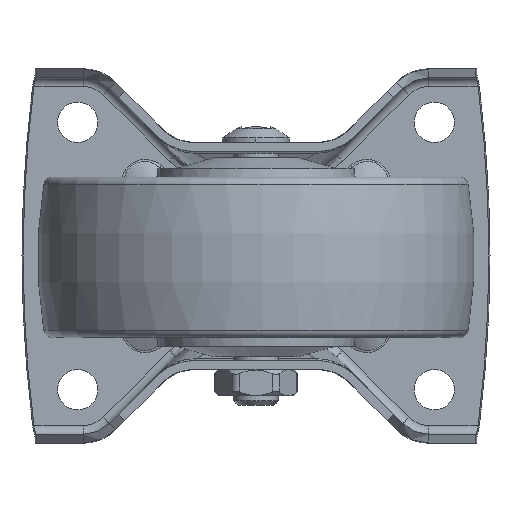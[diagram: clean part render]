
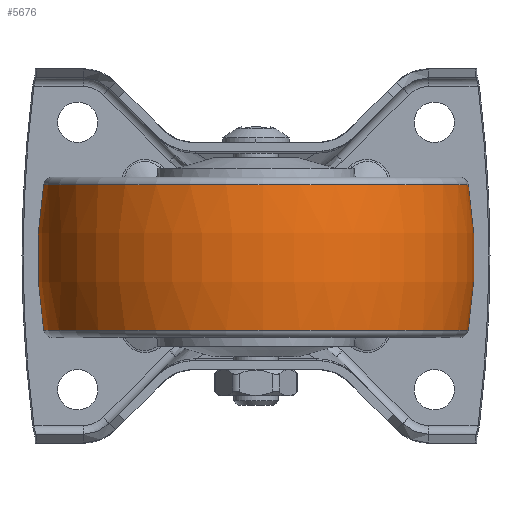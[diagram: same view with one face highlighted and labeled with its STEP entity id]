
A CAD part, front view. The second image highlights one B-rep face of the part: STEP entity #5676.
In plain terms, the highlighted toroidal (fillet/blend) face has major radius 51 mm and minor radius 100 mm.
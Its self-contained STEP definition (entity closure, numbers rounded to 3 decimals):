
#2759 = ORIENTED_EDGE ( 'NONE', *, *, #8263, .T. ) ;
#5676 = ADVANCED_FACE ( 'NONE', ( #15036 ), #15299, .T. ) ;
#6804 = CARTESIAN_POINT ( 'NONE',  ( -53.342, -23.707, -2.426 ) ) ;
#6964 = DIRECTION ( 'NONE',  ( -0.034, 0.999, 0. ) ) ;
#7070 = VERTEX_POINT ( 'NONE', #16001 ) ;
#7092 = CIRCLE ( 'NONE', #7104, 100. ) ;
#7104 = AXIS2_PLACEMENT_3D ( 'NONE', #6804, #6964, #7132 ) ;
#7132 = DIRECTION ( 'NONE',  ( -0.999, -0.034, 0. ) ) ;
#8263 = EDGE_CURVE ( 'NONE', #8318, #7070, #16908, .T. ) ;
#8314 = EDGE_CURVE ( 'NONE', #8456, #8394, #7092, .T. ) ;
#8318 = VERTEX_POINT ( 'NONE', #17202 ) ;
#8394 = VERTEX_POINT ( 'NONE', #17190 ) ;
#8456 = VERTEX_POINT ( 'NONE', #17435 ) ;
#10410 = ORIENTED_EDGE ( 'NONE', *, *, #8314, .F. ) ;
#10771 = EDGE_CURVE ( 'NONE', #8456, #8318, #20245, .T. ) ;
#10912 = ORIENTED_EDGE ( 'NONE', *, *, #10771, .T. ) ;
#11050 = EDGE_LOOP ( 'NONE', ( #10410, #10912, #2759, #11170 ) ) ;
#11117 = EDGE_CURVE ( 'NONE', #8394, #7070, #20528, .T. ) ;
#11170 = ORIENTED_EDGE ( 'NONE', *, *, #11117, .F. ) ;
#15036 = FACE_OUTER_BOUND ( 'NONE', #11050, .T. ) ;
#15125 = DIRECTION ( 'NONE',  ( -0.999, -0.034, 0. ) ) ;
#15290 = DIRECTION ( 'NONE',  ( 0., 0., -1. ) ) ;
#15291 = CARTESIAN_POINT ( 'NONE',  ( -2.371, -21.998, -2.426 ) ) ;
#15297 = AXIS2_PLACEMENT_3D ( 'NONE', #15291, #15290, #15125 ) ;
#15299 = TOROIDAL_SURFACE ( 'NONE', #15297, -51., 100. ) ;
#16001 = CARTESIAN_POINT ( 'NONE',  ( -50.002, -23.595, -18.752 ) ) ;
#16908 = CIRCLE ( 'NONE', #16969, 100. ) ;
#16966 = DIRECTION ( 'NONE',  ( 0.999, 0.034, 0. ) ) ;
#16967 = DIRECTION ( 'NONE',  ( 0.034, -0.999, 0. ) ) ;
#16968 = CARTESIAN_POINT ( 'NONE',  ( 48.601, -20.289, -2.426 ) ) ;
#16969 = AXIS2_PLACEMENT_3D ( 'NONE', #16968, #16967, #16966 ) ;
#17190 = CARTESIAN_POINT ( 'NONE',  ( 45.261, -20.401, -18.752 ) ) ;
#17202 = CARTESIAN_POINT ( 'NONE',  ( -50.002, -23.595, 13.901 ) ) ;
#17435 = CARTESIAN_POINT ( 'NONE',  ( 45.261, -20.401, 13.901 ) ) ;
#20245 = CIRCLE ( 'NONE', #20259, 47.658 ) ;
#20259 = AXIS2_PLACEMENT_3D ( 'NONE', #20314, #20313, #20312 ) ;
#20312 = DIRECTION ( 'NONE',  ( -0.999, -0.034, 0. ) ) ;
#20313 = DIRECTION ( 'NONE',  ( 0., 0., -1. ) ) ;
#20314 = CARTESIAN_POINT ( 'NONE',  ( -2.371, -21.998, 13.901 ) ) ;
#20528 = CIRCLE ( 'NONE', #20580, 47.658 ) ;
#20576 = DIRECTION ( 'NONE',  ( -0.999, -0.034, 0. ) ) ;
#20577 = DIRECTION ( 'NONE',  ( 0., 0., -1. ) ) ;
#20578 = CARTESIAN_POINT ( 'NONE',  ( -2.371, -21.998, -18.752 ) ) ;
#20580 = AXIS2_PLACEMENT_3D ( 'NONE', #20578, #20577, #20576 ) ;
